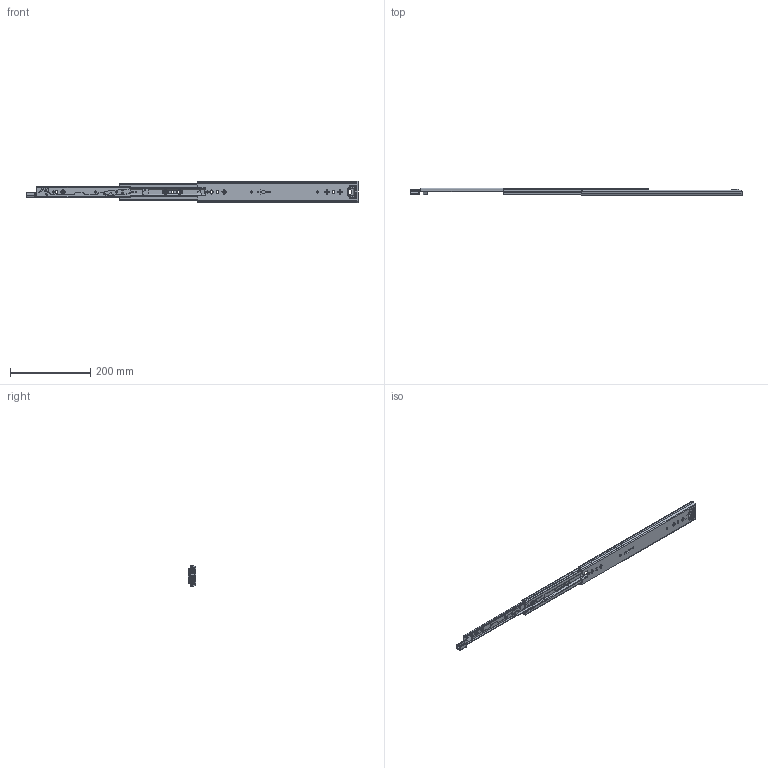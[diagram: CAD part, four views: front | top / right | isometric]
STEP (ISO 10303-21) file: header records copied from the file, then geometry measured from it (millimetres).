
FILE_DESCRIPTION((''),'2;1');
FILE_NAME('1053-3S-16ZUZHUANGTU_ASM','2023-04-06T',('jishu015'),(''),'PRO/ENGINEER BY PARAMETRIC TECHNOLOGY CORPORATION, 2010280','PRO/ENGINEER BY PARAMETRIC TECHNOLOGY CORPORATION, 2010280','');
FILE_SCHEMA(('CONFIG_CONTROL_DESIGN'));
Length unit declared in the file: millimetre
Products named in the file (20): 1053-02-18WAIKE12___; 1053WEIJIAO12___; 1053-3S-24WAIKE12____ASM; 1053ZHUTIAO-17521___; 53-5-6GANZHU21___; 1053ZHUTIAO-175MM21____ASM; 1053-02-18ZHONGGUI21___; ZHONGGUIPEIJIAN21___; ZHONGGUISUOKOU21___; 1053-02-18ZHONGGUI21____ASM; 1053XIAOZHUJIA-14GE21___; 1053XIAOZHUJIA-14GE21____ASM; 1053-02-18NEIGUI21___; DAOPIAN21___; PIAN21___; 1053-3SBANJI12321___; JIAO-121___; 50XINSUOKOU2___; 1053-02-18NEIGUI21____ASM; 1053-3S-16ZUZHUANGTU_ASM
Assembly tree (49 placements, depth 3):
  1053-3S-16ZUZHUANGTU_ASM
    1053-3S-24WAIKE12____ASM
      1053-02-18WAIKE12___
      1053WEIJIAO12___
    1053ZHUTIAO-175MM21____ASM  x2
      1053ZHUTIAO-17521___
      53-5-6GANZHU21___
    1053-02-18ZHONGGUI21____ASM
      1053-02-18ZHONGGUI21___
      ZHONGGUIPEIJIAN21___
      ZHONGGUISUOKOU21___
    1053XIAOZHUJIA-14GE21____ASM
      1053XIAOZHUJIA-14GE21___
      53-5-6GANZHU21___  x24
    1053-02-18NEIGUI21____ASM
      1053-02-18NEIGUI21___
      DAOPIAN21___
      PIAN21___
      1053-3SBANJI12321___
      JIAO-121___
      50XINSUOKOU2___
Bounding box: 826.92 x 18.7 x 53 mm (x, y, z)
Volume: 151217.5 mm3; surface area: 173904 mm2
Topology: 51 solids, 51 shells, 1535 faces, 4374 edges, 2755 vertices
Faces by surface type: plane 659, cylinder 636, sphere 80, bspline 75, cone 46, extrusion 23, torus 16
Entity records: 51192 total; most frequent: CARTESIAN_POINT 13246, ORIENTED_EDGE 8038, DIRECTION 7751, EDGE_CURVE 4019, AXIS2_PLACEMENT_3D 2668, VERTEX_POINT 2597, VECTOR 2415, LINE 2392
